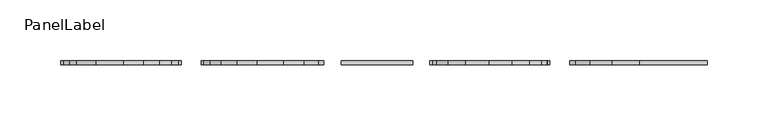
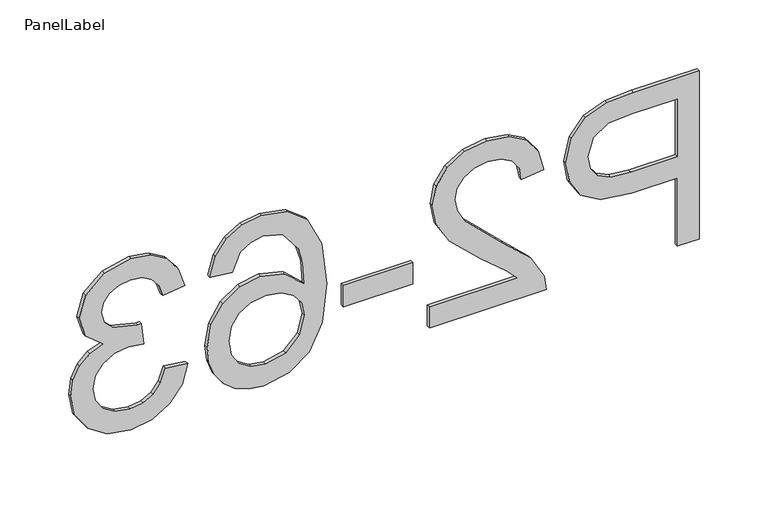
"""IFC4 building model written with IfcOpenShell, lengths in millimetres: fastener geometry, PanelLabel : Miranda."""

from ifc_helpers import new_model, si_unit, frame, origin, place, context, project, spatial, polyline, outline, extrude, source, transform, mapped, element, save


def panellabel_13f6a39c(model_context):
    return source(origin(), model_context, "Body", "SweptSolid", [
        extrude(outline(polyline([(1310.9113766, 260.2523077), (1460.9667612, 260.2523077), (1460.9667612, 204.6409615), (1459.5380112, 182.2205769), (1452.5224823, 163.9948558), (1438.0151747, 152.1801923), (1417.554742, 147.7107692), (1399.8693814, 150.7285457), (1385.1331073, 159.781875), (1375.1868093, 176.7116466), (1371.8713766, 203.35875), (1371.8713766, 241.4953846), (1310.9113766, 241.4953846), (1310.9113766, 260.2523077)]), holes=[polyline([(1390.6282997, 241.4953846), (1390.6282997, 202.2597115), (1392.3501266, 185.6275962), (1397.5156073, 174.6372115), (1405.8041891, 168.5100721), (1416.8953189, 166.4676923), (1432.4283958, 171.2851442), (1440.9276266, 183.9424038), (1442.2098381, 202.6993269), (1442.2098381, 241.4953846), (1390.6282997, 241.4953846)])]), frame((0.0, 60.325, 0.0), z_axis=(0.0, 1.0, 0.0), x_axis=(0.0, 0.0, 1.0)), (0.0, 0.0, 1.0), 3.175),
        extrude(outline(polyline([(1329.6682997, 32.8246154), (1310.9113766, 32.8246154), (1310.9113766, 131.2984615), (1323.8433958, 129.2835577), (1343.7543093, 117.8901923), (1365.4969535, 94.4074038), (1396.7462804, 62.0224038), (1407.5168573, 55.9502163), (1417.9943573, 53.9261538), (1427.3865569, 55.8357332), (1435.1943093, 61.5644712), (1440.4559559, 70.3705168), (1442.2098381, 81.5120192), (1440.4971698, 93.2121995), (1435.359165, 102.3021635), (1427.1988045, 108.1682813), (1416.4190689, 110.1969231), (1418.7636843, 128.9538462), (1436.9069775, 124.4065745), (1450.1595497, 114.5747596), (1458.2649583, 99.9712861), (1460.9667612, 81.1090385), (1457.9627227, 62.1094111), (1448.9506073, 47.5334135), (1435.4873862, 38.2602764), (1419.1300304, 35.1692308), (1401.3439247, 38.5029808), (1382.9533477, 49.5849519), (1357.254165, 76.4564423), (1339.211617, 98.0342308), (1329.6682997, 106.4968269), (1329.6682997, 32.8246154)])), frame((0.0, 60.325, 0.0), z_axis=(0.0, 1.0, 0.0), x_axis=(0.0, 0.0, 1.0)), (0.0, 0.0, 1.0), 3.175),
        extrude(outline(polyline([(-39.8584615, 63.5), (18.7569231, 63.5), (18.7569231, 60.325), (-39.8584615, 60.325), (-39.8584615, 63.5)])), frame((0.0, 0.0, 1355.4590689), z_axis=(0.0, 0.0, 1.0), x_axis=(1.0, 0.0, 0.0)), (0.0, 0.0, 1.0), 18.7569231),
        extrude(outline(polyline([(1421.1082997, -152.4), (1418.7636843, -133.6430769), (1434.406665, -126.5359615), (1440.2590448, -118.0275721), (1442.2098381, -107.7424038), (1437.6671458, -90.8172115), (1420.6137323, -78.0134135), (1406.6422059, -74.1255649), (1387.1846458, -72.6830769), (1402.1498862, -89.2236058), (1407.0406073, -109.7206731), (1403.6976987, -127.0488462), (1393.6689727, -141.5927885), (1378.3465448, -151.4566587), (1359.1225304, -154.7446154), (1345.6913646, -153.1968029), (1333.2401747, -148.5533654), (1322.6802468, -141.1989663), (1314.922867, -131.5182692), (1310.1557876, -119.9508894), (1308.5667612, -106.9364423), (1312.779742, -85.6563101), (1325.4186843, -68.7082212), (1347.729165, -57.6216707), (1380.9567612, -53.9261538), (1418.3149102, -58.0292308), (1443.8583958, -70.3384615), (1456.6896698, -87.1445913), (1460.9667612, -108.9147115), (1458.3199102, -125.3728125), (1450.3793573, -138.5521154), (1437.767891, -147.7840385), (1421.1082997, -152.4)]), holes=[polyline([(1359.4156073, -72.6830769), (1343.1681554, -77.0242788), (1331.3718093, -88.5641827), (1327.3236843, -105.4710577), (1329.421016, -117.8489784), (1335.7130112, -127.5800481), (1345.6043573, -133.8857812), (1358.499742, -135.9876923), (1370.8776626, -133.9132572), (1380.3156554, -127.6899519), (1386.2916771, -117.7940264), (1388.2836843, -104.7017308), (1386.2916771, -92.3421274), (1380.3156554, -82.0065865), (1371.106629, -75.0139543), (1359.4156073, -72.6830769)])]), frame((0.0, 60.325, 0.0), z_axis=(0.0, 1.0, 0.0), x_axis=(0.0, 0.0, 1.0)), (0.0, 0.0, 1.0), 3.175),
        extrude(outline(polyline([(1350.7698381, -171.1569231), (1353.1144535, -189.9138462), (1341.327266, -194.1130889), (1333.3683958, -200.263125), (1328.8348622, -208.6661899), (1327.3236843, -219.6245192), (1329.4026987, -232.4832692), (1335.639742, -242.41125), (1344.9449343, -248.7581971), (1356.2283958, -250.8738462), (1366.9394415, -248.7765144), (1375.6264247, -242.4845192), (1381.3826386, -232.9595192), (1383.3013766, -221.1631731), (1381.2498381, -208.0113462), (1400.0067612, -210.0995192), (1399.7869535, -213.1035577), (1405.172242, -234.3882692), (1412.0045977, -241.4770673), (1421.7310881, -243.84), (1429.8319174, -242.1273317), (1436.4032516, -236.9893269), (1440.7581915, -229.1495192), (1442.2098381, -219.3314423), (1440.7444535, -209.4950481), (1436.3482997, -201.45375), (1429.0213766, -195.5830529), (1418.7636843, -192.2584615), (1421.1082997, -173.5015385), (1437.9510641, -179.0242067), (1450.5258958, -188.8514423), (1458.3565448, -202.2963462), (1460.9667612, -218.6720192), (1455.8195977, -241.2938942), (1441.7519054, -257.1200481), (1422.8301266, -262.5969231), (1405.5385881, -257.3948077), (1393.1194535, -242.0082692), (1388.3752708, -253.7496635), (1380.2973381, -262.4503846), (1369.3252708, -267.8356731), (1355.8986843, -269.6307692), (1337.6180112, -266.0405769), (1322.3413766, -255.27), (1312.010415, -239.0133894), (1308.5667612, -218.9650962), (1311.5066891, -200.8309615), (1320.3264727, -186.0672115), (1333.8171698, -175.8003606), (1350.7698381, -171.1569231)])), frame((0.0, 60.325, 0.0), z_axis=(0.0, 1.0, 0.0), x_axis=(0.0, 0.0, 1.0)), (0.0, 0.0, 1.0), 3.175),
    ])


if __name__ == "__main__":
    model = new_model("IFC4")
    model_context = context("Model", 3, world=origin())
    ifc_project = project(units=[si_unit("LENGTHUNIT", "METRE", prefix="MILLI")], contexts=[model_context])
    site = spatial("IfcSite", under=ifc_project)
    building = spatial("IfcBuilding", under=site)
    placement = place(None, origin())
    panellabel_shape = panellabel_13f6a39c(model_context)
    element("IfcFastener", 1, ObjectType="PanelLabel : Miranda", at=placement, inside=building, context=model_context, shape_type="MappedRepresentation", body=[
        mapped(panellabel_shape, transform((0.0, 0.0, 0.0), x_axis=(1.0, 0.0, 0.0), y_axis=(0.0, 1.0, 0.0), z_axis=(0.0, 0.0, 1.0))),
    ])
    save(model, "model.ifc")
